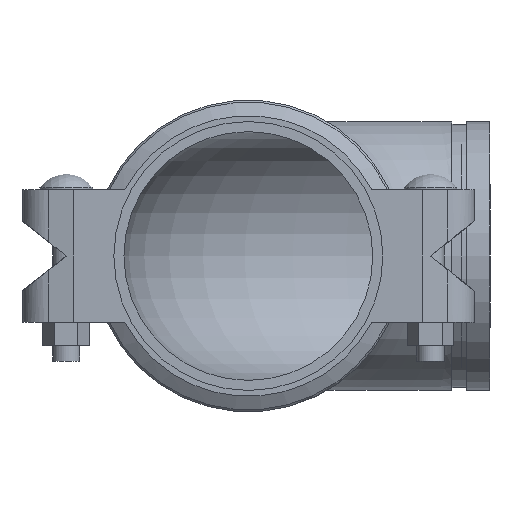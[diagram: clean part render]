
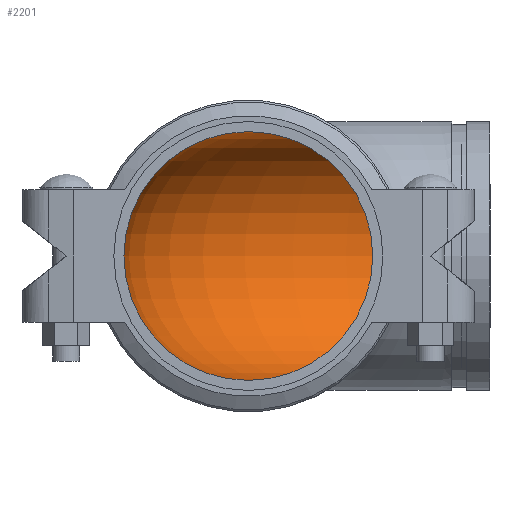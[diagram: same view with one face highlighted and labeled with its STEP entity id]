
A CAD part, left-side view. The second image highlights one B-rep face of the part: STEP entity #2201.
In plain terms, the highlighted toroidal (fillet/blend) face has major radius 173.838 mm and minor radius 101.359 mm.
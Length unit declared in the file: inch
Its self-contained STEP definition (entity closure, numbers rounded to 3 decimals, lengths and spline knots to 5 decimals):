
#62=TOROIDAL_SURFACE('',#2430,6.844,3.9905);
#484=FACE_OUTER_BOUND('',#605,.T.);
#605=EDGE_LOOP('',(#1403,#1404,#1405,#1406,#1407,#1408));
#743=CIRCLE('',#2427,3.9905);
#744=CIRCLE('',#2428,3.9905);
#746=CIRCLE('',#2431,3.9905);
#747=CIRCLE('',#2432,2.8535);
#748=CIRCLE('',#2433,3.9905);
#859=VERTEX_POINT('',#3632);
#860=VERTEX_POINT('',#3633);
#862=VERTEX_POINT('',#3640);
#863=VERTEX_POINT('',#3641);
#1071=EDGE_CURVE('',#859,#860,#743,.T.);
#1072=EDGE_CURVE('',#860,#859,#744,.T.);
#1075=EDGE_CURVE('',#862,#863,#746,.T.);
#1076=EDGE_CURVE('',#863,#860,#747,.T.);
#1077=EDGE_CURVE('',#863,#862,#748,.T.);
#1403=ORIENTED_EDGE('',*,*,#1075,.T.);
#1404=ORIENTED_EDGE('',*,*,#1076,.T.);
#1405=ORIENTED_EDGE('',*,*,#1071,.F.);
#1406=ORIENTED_EDGE('',*,*,#1072,.F.);
#1407=ORIENTED_EDGE('',*,*,#1076,.F.);
#1408=ORIENTED_EDGE('',*,*,#1077,.T.);
#2201=ADVANCED_FACE('',(#484),#62,.F.);
#2427=AXIS2_PLACEMENT_3D('',#3634,#2700,#2701);
#2428=AXIS2_PLACEMENT_3D('',#3635,#2702,#2703);
#2430=AXIS2_PLACEMENT_3D('',#3639,#2707,#2708);
#2431=AXIS2_PLACEMENT_3D('',#3642,#2709,#2710);
#2432=AXIS2_PLACEMENT_3D('',#3643,#2711,#2712);
#2433=AXIS2_PLACEMENT_3D('',#3644,#2713,#2714);
#2700=DIRECTION('center_axis',(0.,1.,0.));
#2701=DIRECTION('ref_axis',(1.,0.,0.));
#2702=DIRECTION('center_axis',(0.,1.,0.));
#2703=DIRECTION('ref_axis',(1.,0.,0.));
#2707=DIRECTION('center_axis',(0.,0.,1.));
#2708=DIRECTION('ref_axis',(1.,0.,0.));
#2709=DIRECTION('center_axis',(1.,0.,0.));
#2710=DIRECTION('ref_axis',(0.,-1.,0.));
#2711=DIRECTION('center_axis',(0.,0.,1.));
#2712=DIRECTION('ref_axis',(1.,0.,0.));
#2713=DIRECTION('center_axis',(1.,0.,0.));
#2714=DIRECTION('ref_axis',(0.,-1.,0.));
#3632=CARTESIAN_POINT('',(-3.9905,-6.844,0.));
#3633=CARTESIAN_POINT('',(3.9905,-6.844,0.));
#3634=CARTESIAN_POINT('Origin',(0.,-6.844,
0.));
#3635=CARTESIAN_POINT('Origin',(0.,-6.844,
0.));
#3639=CARTESIAN_POINT('Origin',(6.844,-6.844,0.));
#3640=CARTESIAN_POINT('',(6.844,3.9905,0.));
#3641=CARTESIAN_POINT('',(6.844,-3.9905,0.));
#3642=CARTESIAN_POINT('Origin',(6.844,0.,0.));
#3643=CARTESIAN_POINT('Origin',(6.844,-6.844,0.));
#3644=CARTESIAN_POINT('Origin',(6.844,0.,0.));
